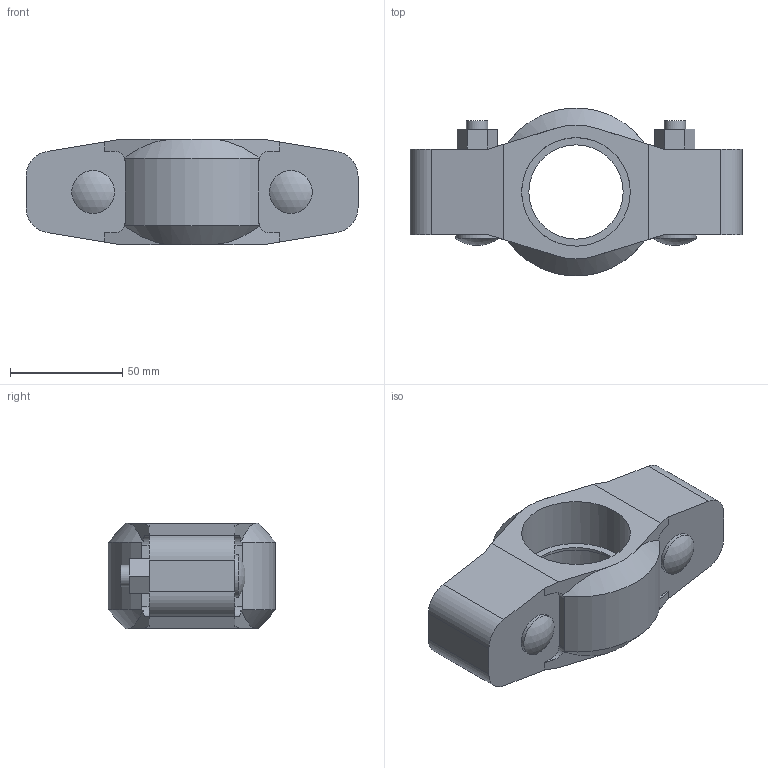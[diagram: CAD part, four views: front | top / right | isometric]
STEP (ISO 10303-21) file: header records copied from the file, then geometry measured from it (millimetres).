
FILE_DESCRIPTION(/* description */ ('VIC COUPLING STYLE 07 RIGID','CAx-IF Rec.Pracs.---Representation and Presentation of Product Manufacturing Information (PMI)---4.0---2014-10-13'),/* implementation_level */ '2;1');
FILE_NAME(/* name */ 'C:\Users\kkamble\Desktop\KIRAN\2022\Updated Couplings\007\Victaulic_IPS_Coupling Rigid_Style 07 (OGS)\Victaulic_IPS_Coupling Rigid_Style 07 (OGS)_1.5 (40).stp',/* time_stamp */ '2022-03-25T09:56:06+05:00',/* author */ ('jheald'),/* organization */ ('Victaulic'),/* preprocessor_version */ 'ST-DEVELOPER v17.2',/* originating_system */ 'Autodesk Inventor 2019',/* authorisation */ '');
FILE_SCHEMA (('AP242_MANAGED_MODEL_BASED_3D_ENGINEERING_MIM_LF { 1 0 10303 442 1 1 4 }'));
Length unit declared in the file: inch
Products named in the file (1): 07-01.5
Bounding box: 147.57 x 74.41 x 46.74 mm (x, y, z)
Volume: 223544.6 mm3; surface area: 41311.8 mm2
Topology: 1 solids, 3 shells, 91 faces, 251 edges, 170 vertices
Faces by surface type: plane 58, cylinder 27, cone 4, sphere 2
Full cylindrical faces by diameter (mm): 9.525 x4, 19.05 x2, 41.91 x1, 48.26 x2
Entity records: 3204 total; most frequent: CARTESIAN_POINT 610, DIRECTION 511, ORIENTED_EDGE 502, EDGE_CURVE 251, AXIS2_PLACEMENT_3D 179, VERTEX_POINT 170, LINE 153, VECTOR 153
